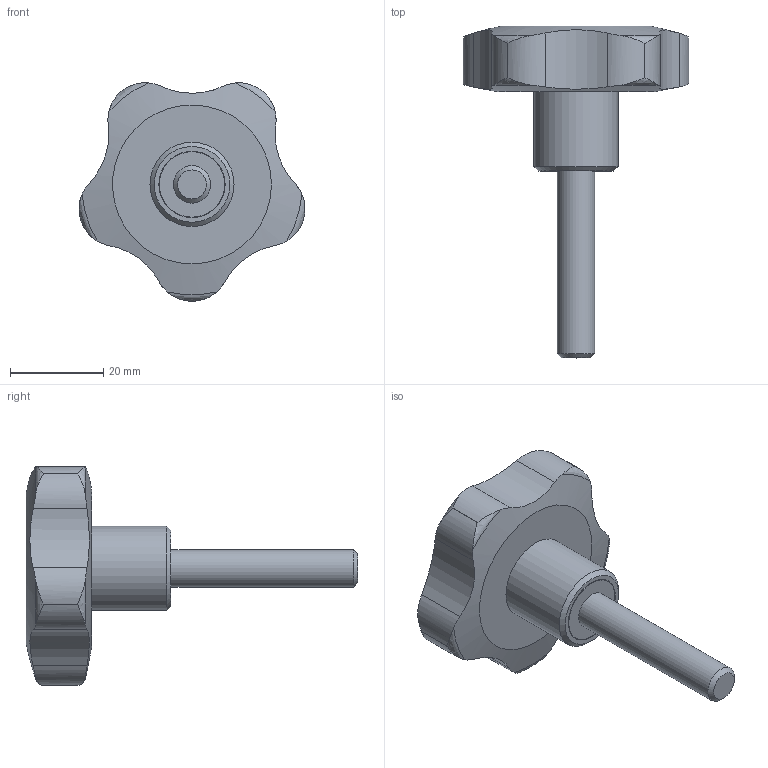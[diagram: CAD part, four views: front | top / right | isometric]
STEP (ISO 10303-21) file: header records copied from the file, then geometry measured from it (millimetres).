
FILE_DESCRIPTION( ( 'STEP AP203' ), '1' );
FILE_NAME( 'C:/Temp/Ganter_Step_05_03_2020/data/2_2/gn_5337_4/gn_5337_4_s/Star knob GN 5337.4-50-M8-40.stp', '2020-03-05T12:09:48', ( 'License CC BY-ND 4.0' ), ( 'CADENAS' ), ' ', 'PARTsolutions', ' ' );
FILE_SCHEMA( ( 'CONFIG_CONTROL_DESIGN' ) );
Length unit declared in the file: millimetre
Products named in the file (1): _Star knob GN 5337.4-50-M8-40
Bounding box: 48.33 x 71 x 46.75 mm (x, y, z)
Volume: 26545.9 mm3; surface area: 6811.5 mm2
Topology: 1 solids, 1 shells, 44 faces, 115 edges, 76 vertices
Faces by surface type: cylinder 24, torus 10, plane 5, cone 3, bspline 1, sphere 1
Full cylindrical faces by diameter (mm): 8 x1, 14 x1, 14.2 x1, 18 x1
Entity records: 1975 total; most frequent: CARTESIAN_POINT 974, ORIENTED_EDGE 204, DIRECTION 172, EDGE_CURVE 102, AXIS2_PLACEMENT_3D 76, VERTEX_POINT 74, EDGE_LOOP 56, B_SPLINE_CURVE_WITH_KNOTS 50
